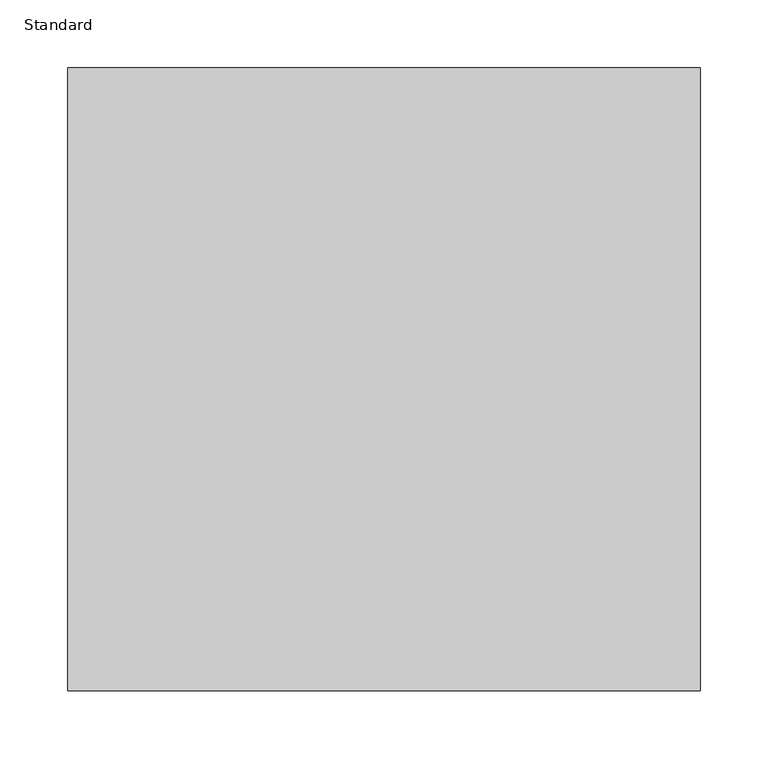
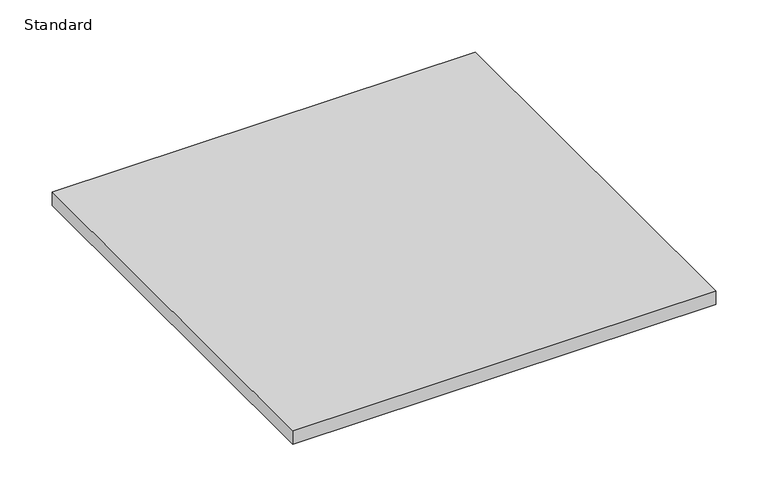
"""IFC4 building model written with IfcOpenShell, lengths in millimetres: furniture geometry, X_Locker-Duracube-Shelf : Standard."""

from ifc_helpers import new_model, si_unit, origin, origin_with_axes, place, context, project, spatial, polyline, outline, extrude, source, transform, mapped, element, save


def standard_9bb63482(model_context):
    return source(origin(), model_context, "Body", "SweptSolid", [
        extrude(outline(polyline([(278.7003264, -331.5), (278.7003264, -792.5), (-189.2996736, -792.5), (-189.2996736, -331.5), (278.7003264, -331.5)])), origin_with_axes(), (0.0, 0.0, 1.0), 16.0),
    ])


if __name__ == "__main__":
    model = new_model("IFC4")
    model_context = context("Model", 3, world=origin())
    ifc_project = project(units=[si_unit("LENGTHUNIT", "METRE", prefix="MILLI")], contexts=[model_context])
    site = spatial("IfcSite", under=ifc_project)
    building = spatial("IfcBuilding", under=site)
    placement = place(None, origin())
    standard_shape = standard_9bb63482(model_context)
    element("IfcFurniture", 1, ObjectType="X_Locker-Duracube-Shelf : Standard", at=placement, inside=building, context=model_context, shape_type="MappedRepresentation", body=[
        mapped(standard_shape, transform((0.0, 0.0, 0.0), x_axis=(1.0, 0.0, 0.0), y_axis=(0.0, 1.0, 0.0), z_axis=(0.0, 0.0, 1.0))),
    ])
    save(model, "model.ifc")
